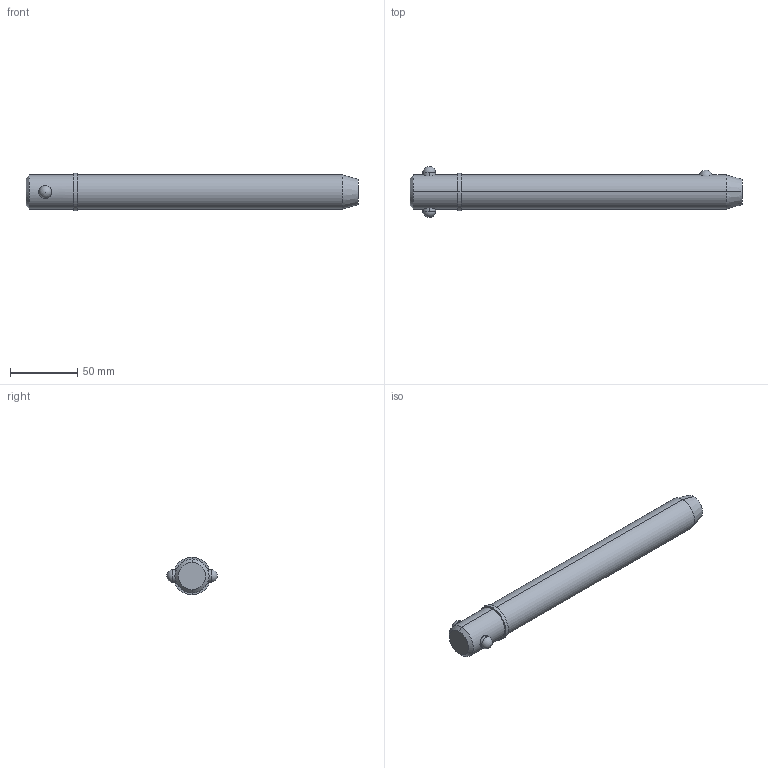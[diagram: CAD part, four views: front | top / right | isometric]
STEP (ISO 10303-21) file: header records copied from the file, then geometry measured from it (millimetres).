
FILE_DESCRIPTION (( 'STEP AP203' ), '1' );
FILE_NAME ('33018.W1070.step', '2024-11-19T17:25:19', ( '' ), ( '' ), 'SwSTEP 2.0', 'SolidWorks 2019', '' );
FILE_SCHEMA (( 'CONFIG_CONTROL_DESIGN' ));
Length unit declared in the file: millimetre
Products named in the file (3): Part2_33018.W1070; Part1_33018.W1070; 33018.W1070
Assembly tree (2 placements, depth 2):
  33018.W1070
    Part1_33018.W1070
    Part2_33018.W1070
Bounding box: 247.65 x 38.1 x 27.94 mm (x, y, z)
Volume: 125011.5 mm3; surface area: 22346.9 mm2
Topology: 2 solids, 2 shells, 22 faces, 47 edges, 30 vertices
Faces by surface type: cylinder 10, sphere 4, cone 4, plane 4
Entity records: 1071 total; most frequent: CARTESIAN_POINT 314, DIRECTION 110, ORIENTED_EDGE 82, AXIS2_PLACEMENT_3D 48, EDGE_CURVE 41, EDGE_LOOP 27, VERTEX_POINT 26, PERSON_AND_ORGANIZATION 26
